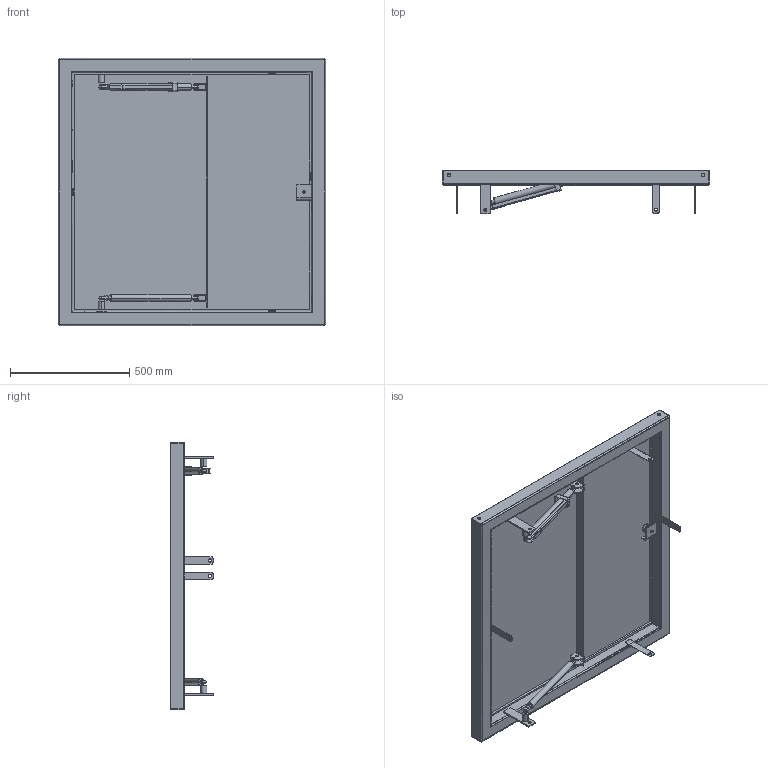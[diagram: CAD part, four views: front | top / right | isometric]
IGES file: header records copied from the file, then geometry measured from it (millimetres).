
Start section:  PTC IGES file: 51292884-600.igs
Global section: file name: 51292884-600.igs; native system: Creo Parametric by PTC Inc.; preprocessor: 2021184; author: wep; organization: Unknown; date: 20221125.100139; units: millimetre
Bounding box: 1120 x 180 x 1120 mm (x, y, z)
Surface area: 4368564.1 mm2 (no closed solid volume)
Topology: 0 solids, 0 shells, 504 faces, 2444 edges, 2432 vertices
Faces by surface type: bspline 283, revolution 221
